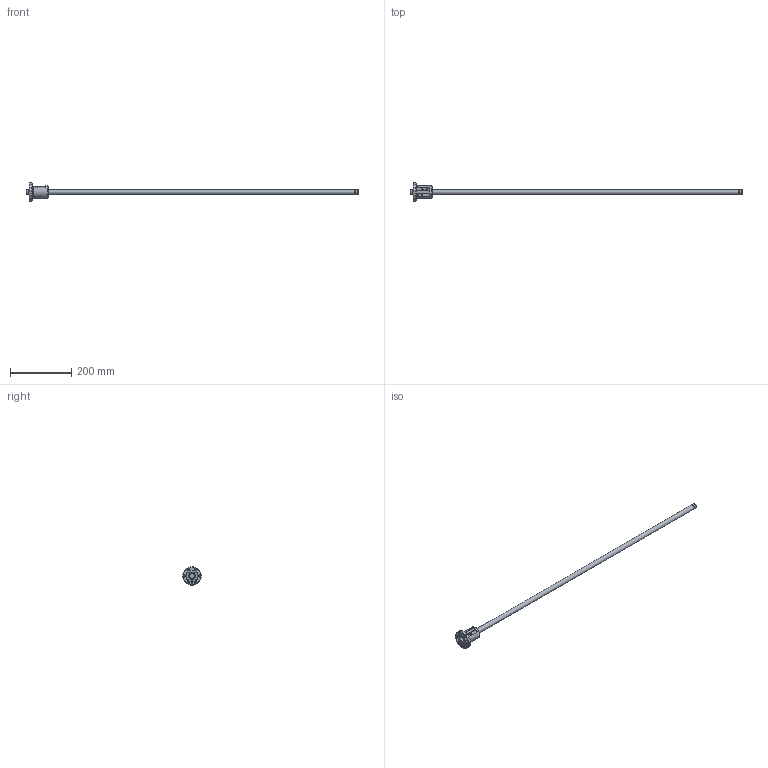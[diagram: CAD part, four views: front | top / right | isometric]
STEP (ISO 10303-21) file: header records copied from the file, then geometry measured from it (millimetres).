
FILE_DESCRIPTION( ( 'STEP AP203' ), ' ' );
FILE_NAME( 'p:/temp/worker_49/1856_1980/app_74_12018011811160700843166818fa3fd_000000_00_00_000000/format_0/BIF1606-5RRG0+1082LC5_10000.stp', '2018-01-18T10:16:08', ( '' ), ( '' ), ' ', 'PARTsolutions', ' ' );
FILE_SCHEMA( ( 'CONFIG_CONTROL_DESIGN' ) );
Length unit declared in the file: millimetre
Products named in the file (3): BIF1606-5RRG0+1082LC5_10000; _BIF 1606-5RR1000500 Shaft; _BIF 1606-5RR Nut
Assembly tree (2 placements, depth 2):
  BIF1606-5RRG0+1082LC5_10000
    _BIF 1606-5RR1000500 Shaft
    _BIF 1606-5RR Nut
Bounding box: 1082 x 60 x 60 mm (x, y, z)
Volume: 289740.9 mm3; surface area: 73628.2 mm2
Topology: 2 solids, 2 shells, 82 faces, 189 edges, 118 vertices
Faces by surface type: cylinder 39, plane 31, cone 8, torus 4
Full cylindrical faces by diameter (mm): 3 x2, 3.6 x4, 4.5 x6, 4.917 x1, 8 x6, 15.5 x2, 16 x4, 24 x2, 40 x1, 60 x1
Entity records: 2432 total; most frequent: CARTESIAN_POINT 619, DIRECTION 386, ORIENTED_EDGE 272, AXIS2_PLACEMENT_3D 177, EDGE_LOOP 150, EDGE_CURVE 136, FACE_OUTER_BOUND 111, VERTEX_POINT 102
